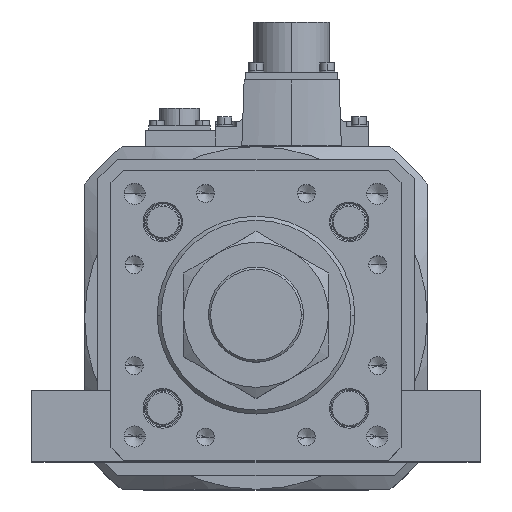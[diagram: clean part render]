
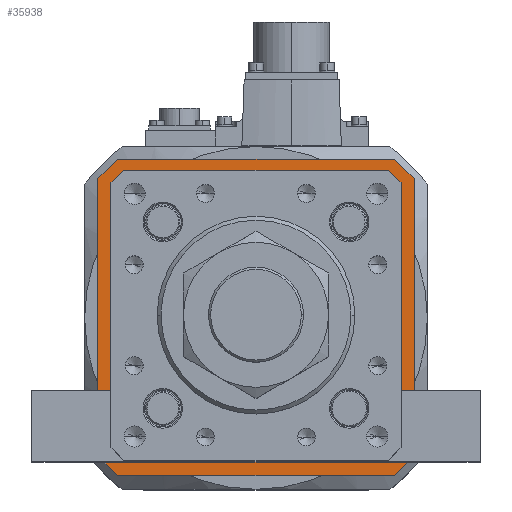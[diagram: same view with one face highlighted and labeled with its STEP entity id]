
A CAD part, top view. The second image highlights one B-rep face of the part: STEP entity #35938.
In plain terms, the highlighted planar face has unit normal (0, 0, 1) as drawn and (0, 0, -1) by its records, which use the part's own axes.
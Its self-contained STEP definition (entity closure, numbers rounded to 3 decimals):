
#488 = VECTOR ( 'NONE', #34617, 1000. ) ;
#646 = EDGE_CURVE ( 'NONE', #25332, #6155, #27362, .T. ) ;
#656 = CARTESIAN_POINT ( 'NONE',  ( -51.546, 51.546, 52. ) ) ;
#780 = VECTOR ( 'NONE', #26403, 1000. ) ;
#834 = ORIENTED_EDGE ( 'NONE', *, *, #11074, .T. ) ;
#1082 = EDGE_LOOP ( 'NONE', ( #24041, #13394, #16900, #834, #3258, #11298, #36036, #15401 ) ) ;
#1296 = CARTESIAN_POINT ( 'NONE',  ( 51.546, -51.546, 52. ) ) ;
#1472 = CARTESIAN_POINT ( 'NONE',  ( 52.5, -60., 52. ) ) ;
#1605 = VECTOR ( 'NONE', #1984, 1000. ) ;
#1984 = DIRECTION ( 'NONE',  ( -1., 0., 0. ) ) ;
#2095 = CARTESIAN_POINT ( 'NONE',  ( 60., 60., 52. ) ) ;
#2219 = DIRECTION ( 'NONE',  ( 0., 1., 0. ) ) ;
#2460 = DIRECTION ( 'NONE',  ( -1., 0., 0. ) ) ;
#2687 = CARTESIAN_POINT ( 'NONE',  ( 53.5, 49.8, 52. ) ) ;
#3258 = ORIENTED_EDGE ( 'NONE', *, *, #37372, .T. ) ;
#3430 = EDGE_CURVE ( 'NONE', #17993, #21771, #22034, .T. ) ;
#4003 = DIRECTION ( 'NONE',  ( 0.707, 0.707, 0. ) ) ;
#4104 = ORIENTED_EDGE ( 'NONE', *, *, #17431, .T. ) ;
#4133 = LINE ( 'NONE', #22653, #34203 ) ;
#4154 = DIRECTION ( 'NONE',  ( 0., 0., 1. ) ) ;
#4898 = VECTOR ( 'NONE', #2219, 1000. ) ;
#5034 = CARTESIAN_POINT ( 'NONE',  ( -49.593, -53.5, 52. ) ) ;
#6155 = VERTEX_POINT ( 'NONE', #20084 ) ;
#6511 = VECTOR ( 'NONE', #2460, 1000. ) ;
#7041 = DIRECTION ( 'NONE',  ( 1., 0., 0. ) ) ;
#7437 = DIRECTION ( 'NONE',  ( 0.707, 0.707, 0. ) ) ;
#7717 = DIRECTION ( 'NONE',  ( 0.707, -0.707, 0. ) ) ;
#8070 = ORIENTED_EDGE ( 'NONE', *, *, #21391, .F. ) ;
#8115 = EDGE_CURVE ( 'NONE', #19662, #9319, #22758, .T. ) ;
#8239 = VERTEX_POINT ( 'NONE', #27053 ) ;
#8840 = VECTOR ( 'NONE', #26654, 1000. ) ;
#9139 = LINE ( 'NONE', #2095, #4898 ) ;
#9319 = VERTEX_POINT ( 'NONE', #27975 ) ;
#9659 = VECTOR ( 'NONE', #27211, 1000. ) ;
#9895 = VECTOR ( 'NONE', #4003, 1000. ) ;
#10172 = CARTESIAN_POINT ( 'NONE',  ( 52.5, 60., 52. ) ) ;
#10604 = VERTEX_POINT ( 'NONE', #20096 ) ;
#11074 = EDGE_CURVE ( 'NONE', #20020, #16911, #14812, .T. ) ;
#11298 = ORIENTED_EDGE ( 'NONE', *, *, #3430, .T. ) ;
#11551 = EDGE_CURVE ( 'NONE', #29508, #36079, #17134, .T. ) ;
#11969 = CARTESIAN_POINT ( 'NONE',  ( 53.5, -49.593, 52. ) ) ;
#12158 = ORIENTED_EDGE ( 'NONE', *, *, #12238, .F. ) ;
#12238 = EDGE_CURVE ( 'NONE', #29508, #8239, #9139, .T. ) ;
#12360 = CARTESIAN_POINT ( 'NONE',  ( -60., 52.5, 52. ) ) ;
#12388 = CARTESIAN_POINT ( 'NONE',  ( 49.8, -53.5, 52. ) ) ;
#13394 = ORIENTED_EDGE ( 'NONE', *, *, #646, .T. ) ;
#13645 = ORIENTED_EDGE ( 'NONE', *, *, #15489, .T. ) ;
#14224 = CARTESIAN_POINT ( 'NONE',  ( -60., 60., 52. ) ) ;
#14235 = CARTESIAN_POINT ( 'NONE',  ( 52.5, 60., 52. ) ) ;
#14746 = CARTESIAN_POINT ( 'NONE',  ( -60., -60., 52. ) ) ;
#14812 = LINE ( 'NONE', #21633, #37858 ) ;
#14871 = CARTESIAN_POINT ( 'NONE',  ( -60., 60., 52. ) ) ;
#15401 = ORIENTED_EDGE ( 'NONE', *, *, #15868, .T. ) ;
#15489 = EDGE_CURVE ( 'NONE', #19662, #33864, #25310, .T. ) ;
#15767 = CARTESIAN_POINT ( 'NONE',  ( -60., 52.5, 52. ) ) ;
#15868 = EDGE_CURVE ( 'NONE', #28724, #21226, #38525, .T. ) ;
#16176 = PLANE ( 'NONE',  #16651 ) ;
#16263 = CARTESIAN_POINT ( 'NONE',  ( 49.593, -53.5, 52. ) ) ;
#16651 = AXIS2_PLACEMENT_3D ( 'NONE', #22215, #4154, #7041 ) ;
#16900 = ORIENTED_EDGE ( 'NONE', *, *, #36370, .T. ) ;
#16911 = VERTEX_POINT ( 'NONE', #23269 ) ;
#17134 = LINE ( 'NONE', #21343, #28408 ) ;
#17285 = VECTOR ( 'NONE', #34453, 1000. ) ;
#17431 = EDGE_CURVE ( 'NONE', #21765, #8239, #38717, .T. ) ;
#17993 = VERTEX_POINT ( 'NONE', #5034 ) ;
#18885 = CARTESIAN_POINT ( 'NONE',  ( -52.5, 60., 52. ) ) ;
#19104 = LINE ( 'NONE', #1296, #19559 ) ;
#19559 = VECTOR ( 'NONE', #7437, 1000. ) ;
#19662 = VERTEX_POINT ( 'NONE', #12360 ) ;
#19895 = CARTESIAN_POINT ( 'NONE',  ( -49.8, 53.5, 52. ) ) ;
#20020 = VERTEX_POINT ( 'NONE', #25061 ) ;
#20084 = CARTESIAN_POINT ( 'NONE',  ( -49.593, 53.5, 52. ) ) ;
#20096 = CARTESIAN_POINT ( 'NONE',  ( -52.5, -60., 52. ) ) ;
#21226 = VERTEX_POINT ( 'NONE', #32941 ) ;
#21287 = DIRECTION ( 'NONE',  ( 1., 0., 0. ) ) ;
#21343 = CARTESIAN_POINT ( 'NONE',  ( 60., -52.5, 52. ) ) ;
#21391 = EDGE_CURVE ( 'NONE', #21765, #33864, #36572, .T. ) ;
#21633 = CARTESIAN_POINT ( 'NONE',  ( -53.5, -49.8, 52. ) ) ;
#21765 = VERTEX_POINT ( 'NONE', #10172 ) ;
#21771 = VERTEX_POINT ( 'NONE', #16263 ) ;
#22034 = LINE ( 'NONE', #12388, #37147 ) ;
#22215 = CARTESIAN_POINT ( 'NONE',  ( 0., 0., 52. ) ) ;
#22653 = CARTESIAN_POINT ( 'NONE',  ( -51.546, -51.546, 52. ) ) ;
#22758 = LINE ( 'NONE', #14871, #780 ) ;
#23269 = CARTESIAN_POINT ( 'NONE',  ( -53.5, -49.593, 52. ) ) ;
#23910 = VECTOR ( 'NONE', #38777, 1000. ) ;
#23980 = FACE_OUTER_BOUND ( 'NONE', #38805, .T. ) ;
#24041 = ORIENTED_EDGE ( 'NONE', *, *, #25930, .T. ) ;
#24733 = LINE ( 'NONE', #14746, #8840 ) ;
#25061 = CARTESIAN_POINT ( 'NONE',  ( -53.5, 49.593, 52. ) ) ;
#25310 = LINE ( 'NONE', #15767, #9895 ) ;
#25332 = VERTEX_POINT ( 'NONE', #36099 ) ;
#25342 = FACE_BOUND ( 'NONE', #1082, .T. ) ;
#25930 = EDGE_CURVE ( 'NONE', #21226, #25332, #26489, .T. ) ;
#26403 = DIRECTION ( 'NONE',  ( 0., -1., 0. ) ) ;
#26489 = LINE ( 'NONE', #30650, #9659 ) ;
#26654 = DIRECTION ( 'NONE',  ( 1., 0., 0. ) ) ;
#27053 = CARTESIAN_POINT ( 'NONE',  ( 60., 52.5, 52. ) ) ;
#27211 = DIRECTION ( 'NONE',  ( -0.707, 0.707, 0. ) ) ;
#27362 = LINE ( 'NONE', #19895, #1605 ) ;
#27975 = CARTESIAN_POINT ( 'NONE',  ( -60., -52.5, 52. ) ) ;
#28361 = CARTESIAN_POINT ( 'NONE',  ( -52.5, -60., 52. ) ) ;
#28408 = VECTOR ( 'NONE', #30813, 1000. ) ;
#28724 = VERTEX_POINT ( 'NONE', #11969 ) ;
#29224 = ORIENTED_EDGE ( 'NONE', *, *, #8115, .F. ) ;
#29508 = VERTEX_POINT ( 'NONE', #31737 ) ;
#30021 = LINE ( 'NONE', #28361, #17285 ) ;
#30636 = EDGE_CURVE ( 'NONE', #21771, #28724, #19104, .T. ) ;
#30650 = CARTESIAN_POINT ( 'NONE',  ( 51.546, 51.546, 52. ) ) ;
#30813 = DIRECTION ( 'NONE',  ( -0.707, -0.707, 0. ) ) ;
#31368 = DIRECTION ( 'NONE',  ( 0.707, -0.707, 0. ) ) ;
#31737 = CARTESIAN_POINT ( 'NONE',  ( 60., -52.5, 52. ) ) ;
#32639 = ORIENTED_EDGE ( 'NONE', *, *, #38113, .F. ) ;
#32941 = CARTESIAN_POINT ( 'NONE',  ( 53.5, 49.593, 52. ) ) ;
#32960 = ORIENTED_EDGE ( 'NONE', *, *, #11551, .T. ) ;
#33864 = VERTEX_POINT ( 'NONE', #18885 ) ;
#33920 = DIRECTION ( 'NONE',  ( 0., -1., 0. ) ) ;
#34203 = VECTOR ( 'NONE', #31368, 1000. ) ;
#34453 = DIRECTION ( 'NONE',  ( -0.707, 0.707, 0. ) ) ;
#34617 = DIRECTION ( 'NONE',  ( -0.707, -0.707, 0. ) ) ;
#35877 = VECTOR ( 'NONE', #7717, 1000. ) ;
#35938 = ADVANCED_FACE ( 'NONE', ( #25342, #23980 ), #16176, .F. ) ;
#36036 = ORIENTED_EDGE ( 'NONE', *, *, #30636, .T. ) ;
#36079 = VERTEX_POINT ( 'NONE', #1472 ) ;
#36099 = CARTESIAN_POINT ( 'NONE',  ( 49.593, 53.5, 52. ) ) ;
#36370 = EDGE_CURVE ( 'NONE', #6155, #20020, #37578, .T. ) ;
#36572 = LINE ( 'NONE', #14224, #6511 ) ;
#36987 = EDGE_CURVE ( 'NONE', #10604, #9319, #30021, .T. ) ;
#37147 = VECTOR ( 'NONE', #21287, 1000. ) ;
#37372 = EDGE_CURVE ( 'NONE', #16911, #17993, #4133, .T. ) ;
#37578 = LINE ( 'NONE', #656, #488 ) ;
#37858 = VECTOR ( 'NONE', #33920, 1000. ) ;
#38113 = EDGE_CURVE ( 'NONE', #10604, #36079, #24733, .T. ) ;
#38482 = ORIENTED_EDGE ( 'NONE', *, *, #36987, .T. ) ;
#38525 = LINE ( 'NONE', #2687, #23910 ) ;
#38717 = LINE ( 'NONE', #14235, #35877 ) ;
#38777 = DIRECTION ( 'NONE',  ( 0., 1., 0. ) ) ;
#38805 = EDGE_LOOP ( 'NONE', ( #32639, #38482, #29224, #13645, #8070, #4104, #12158, #32960 ) ) ;
